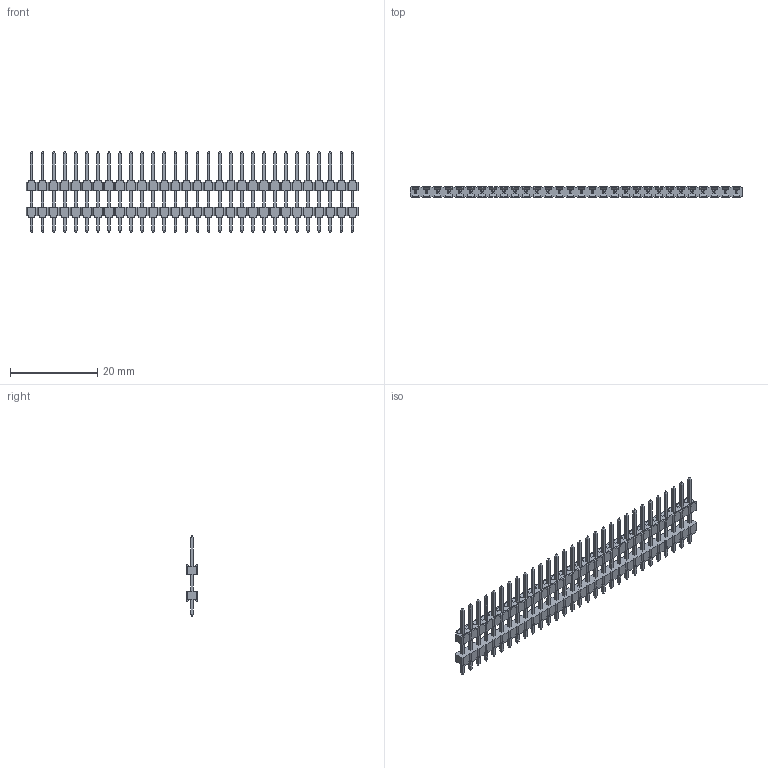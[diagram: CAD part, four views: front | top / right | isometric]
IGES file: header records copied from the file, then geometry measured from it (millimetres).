
Global section: file name: N:\GOLF_VI_2_54mm_UGII\9614XX-X04XX04-XX (TS-2185)\961430-9040304-XX.igs; native system: NX V3.0; preprocessor: UGS NX IGES V4.0; date: 20070618.111030; units: millimetre
Bounding box: 76.2 x 2.5 x 18.5 mm (x, y, z)
Surface area: 2650.2 mm2 (no closed solid volume)
Topology: 0 solids, 0 shells, 1632 faces, 8929 edges, 8929 vertices
Faces by surface type: bspline 1632
